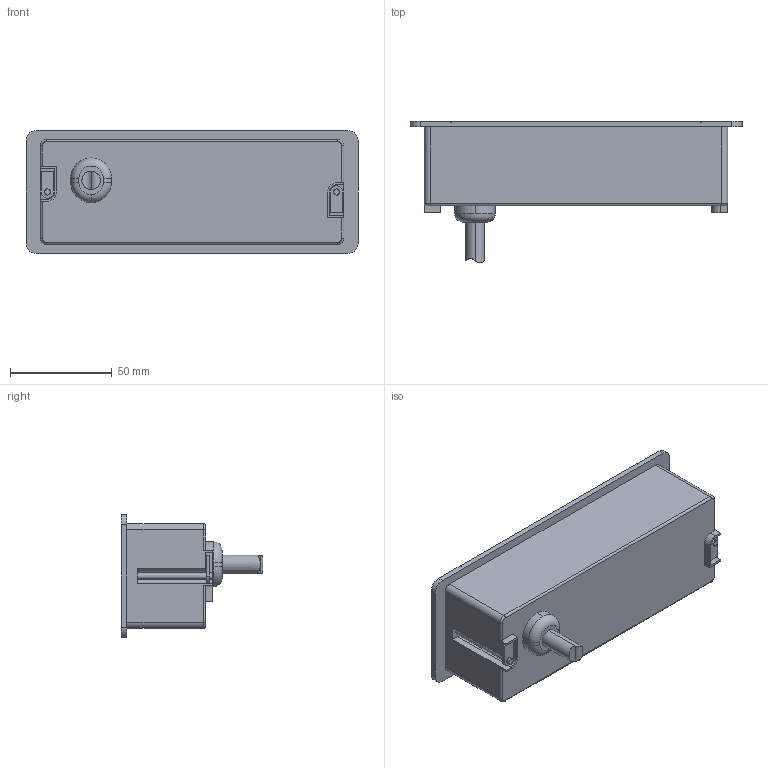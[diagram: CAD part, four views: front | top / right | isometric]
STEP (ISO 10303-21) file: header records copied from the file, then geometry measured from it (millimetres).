
FILE_DESCRIPTION (( 'STEP AP203' ), '1' );
FILE_NAME ('14-0962_SEAMLESS.STEP', '2026-01-19T05:48:50', ( '' ), ( '' ), 'SwSTEP 2.0', 'SolidWorks 2025', '' );
FILE_SCHEMA (( 'CONFIG_CONTROL_DESIGN' ));
Length unit declared in the file: millimetre
Products named in the file (1): 14-0962_SEAMLESS
Bounding box: 163.2 x 69.5 x 60.5 mm (x, y, z)
Volume: 323538.3 mm3; surface area: 41888.8 mm2
Topology: 1 solids, 1 shells, 197 faces, 490 edges, 322 vertices
Faces by surface type: plane 139, cylinder 51, torus 7
Entity records: 5974 total; most frequent: CARTESIAN_POINT 1092, DIRECTION 991, ORIENTED_EDGE 980, EDGE_CURVE 490, LINE 381, VECTOR 381, VERTEX_POINT 322, AXIS2_PLACEMENT_3D 305
